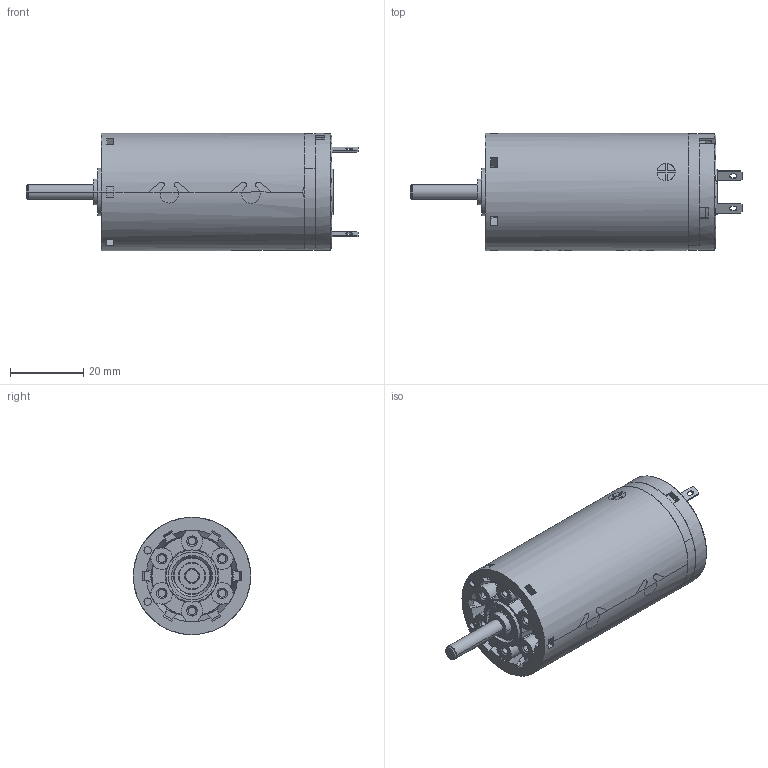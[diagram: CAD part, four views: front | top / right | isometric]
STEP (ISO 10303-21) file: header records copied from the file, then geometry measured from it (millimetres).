
FILE_DESCRIPTION((''),'2;1');
FILE_NAME('236643_AMAX32_GB_15W_KL_1WE2','2016-10-14T',('mmagvisi'),(''),'CREO PARAMETRIC BY PTC INC, 2016050','CREO PARAMETRIC BY PTC INC, 2016050','');
FILE_SCHEMA(('CONFIG_CONTROL_DESIGN'));
Length unit declared in the file: millimetre
Products named in the file (1): 236643_AMAX32_GB_15W_KL_1WE2
Bounding box: 90.6 x 32 x 32 mm (x, y, z)
Volume: 49650.2 mm3; surface area: 11539.1 mm2
Topology: 1 solids, 3 shells, 517 faces, 1369 edges, 876 vertices
Faces by surface type: plane 259, cylinder 190, cone 55, torus 11, bspline 2
Entity records: 25512 total; most frequent: CARTESIAN_POINT 3978, DIRECTION 2810, ORIENTED_EDGE 2738, PRESENTATION_STYLE_ASSIGNMENT 1873, STYLED_ITEM 1370, CURVE_STYLE 1369, EDGE_CURVE 1369, AXIS2_PLACEMENT_3D 1076
